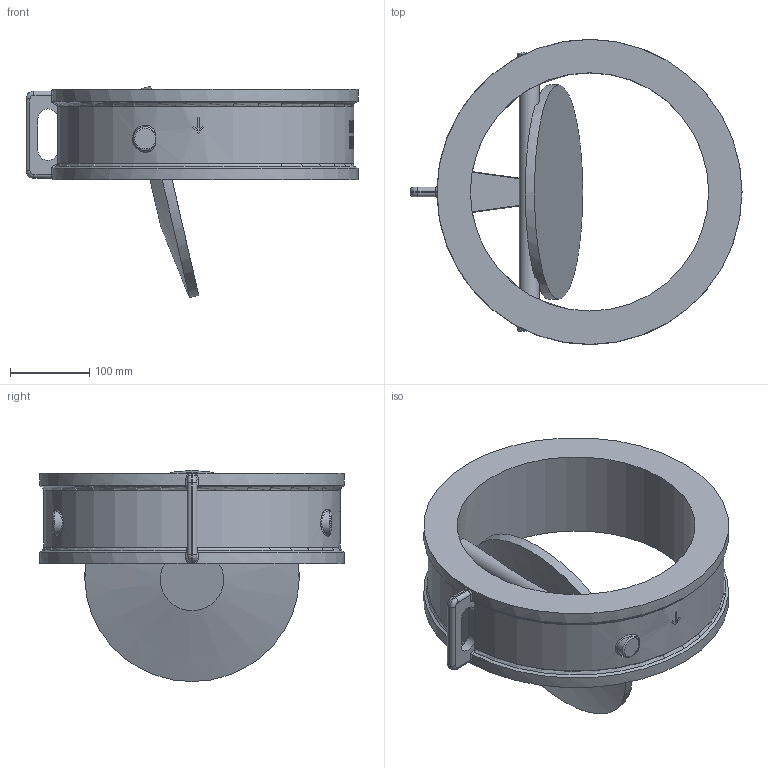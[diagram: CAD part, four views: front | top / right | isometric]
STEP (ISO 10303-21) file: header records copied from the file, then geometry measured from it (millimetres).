
FILE_DESCRIPTION( ( 'Unknown' ), '1' );
FILE_NAME( 'C:/Documents and Settings/Klaus/My Documents/Rootsi BPS 3D, Klaus/BPS 6530 tilting disc check valve/STEP/BPS6530300 tilting disc check valve DN300.stp', 'Unknown', ( 'Unknown' ), ( 'Unknown' ), 'PSStep 10.1', 'Unknown', ' ' );
FILE_SCHEMA( ( 'AUTOMOTIVE_DESIGN { 1 0 10303 214 1 1 1 1 }' ) );
Length unit declared in the file: millimetre
Products named in the file (1): 1
Bounding box: 418 x 384 x 265.78 mm (x, y, z)
Volume: 6082626.2 mm3; surface area: 492288.9 mm2
Topology: 1 solids, 1 shells, 250 faces, 598 edges, 383 vertices
Faces by surface type: bspline 98, plane 81, cylinder 57, torus 10, cone 4
Full cylindrical faces by diameter (mm): 25 x1, 270 x1, 300 x1
Entity records: 26188 total; most frequent: CARTESIAN_POINT 19593, ORIENTED_EDGE 1164, EDGE_CURVE 582, DIRECTION 494, B_SPLINE_CURVE_WITH_KNOTS 459, VERTEX_POINT 381, EDGE_LOOP 305, FACE_OUTER_BOUND 263
